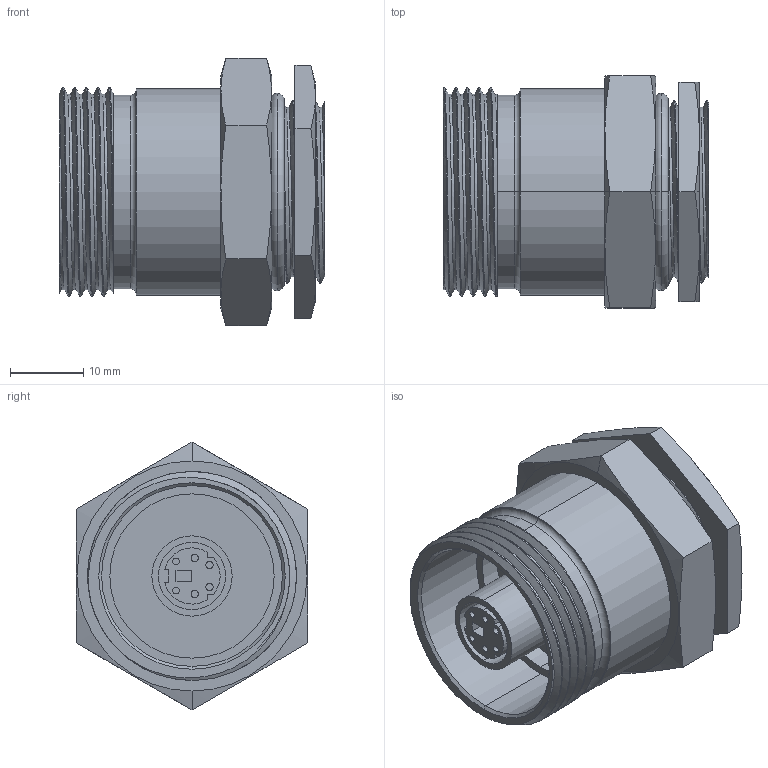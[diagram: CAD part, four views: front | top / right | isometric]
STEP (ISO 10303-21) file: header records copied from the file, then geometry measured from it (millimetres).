
FILE_DESCRIPTION (( 'STEP AP214' ), '1' );
FILE_NAME ('DM6-M25.STEP', '2006-07-13T14:02:59', ( 'Mencom User' ), ( 'Mencom Corporation' ), 'SwSTEP 2.0', 'SolidWorks 2006104', '' );
FILE_SCHEMA (( 'AUTOMOTIVE_DESIGN' ));
Length unit declared in the file: inch
Products named in the file (1): DM6-M25
Bounding box: 36.35 x 31.75 x 36.66 mm (x, y, z)
Surface area: 12374.8 mm2 (no closed solid volume)
Topology: 0 solids, 9 shells, 151 faces, 393 edges, 257 vertices
Faces by surface type: cylinder 69, plane 50, cone 17, bspline 9, torus 6
Entity records: 10257 total; most frequent: CARTESIAN_POINT 4734, DIRECTION 734, ORIENTED_EDGE 707, EDGE_CURVE 393, AXIS2_PLACEMENT_3D 285, VERTEX_POINT 257, EDGE_LOOP 177, VECTOR 164
